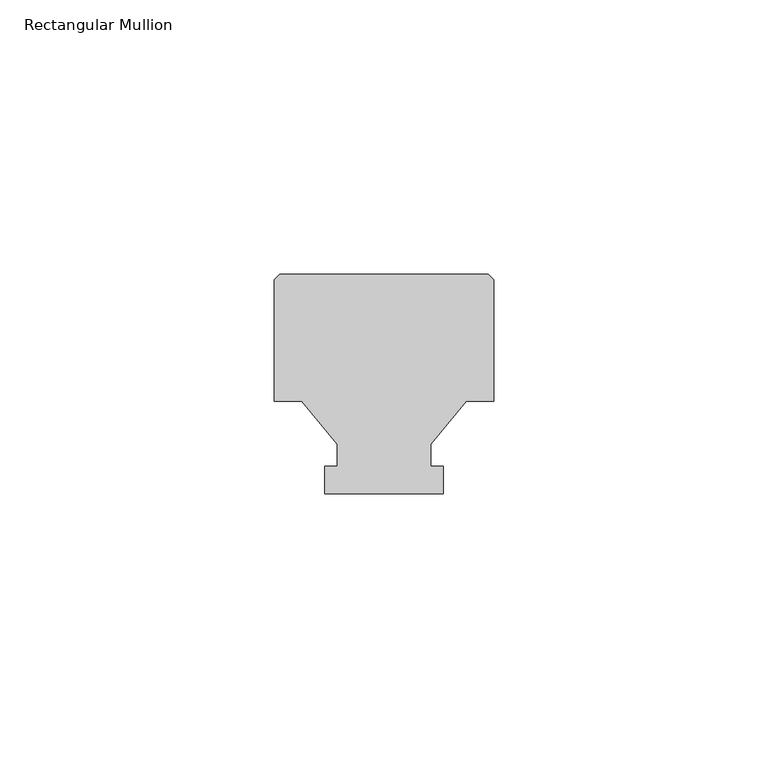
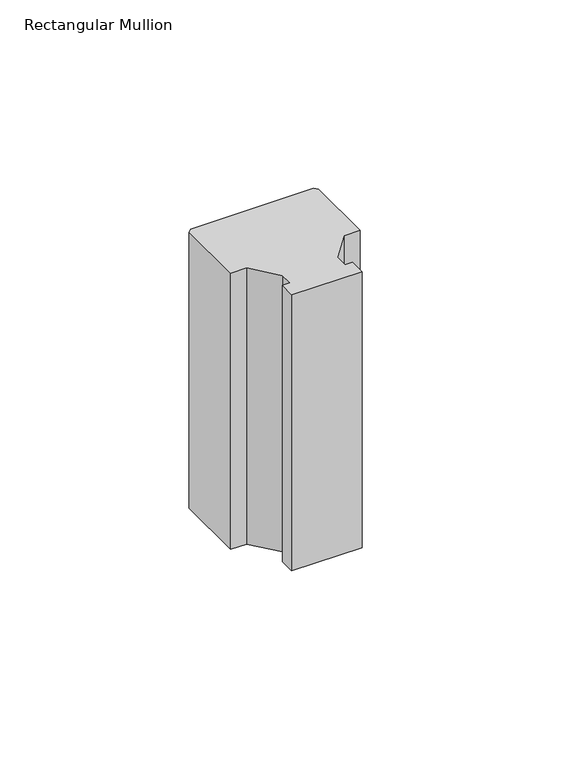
"""IFC4 building model written with IfcOpenShell, lengths in millimetres: member geometry, Rectangular Mullion : Batten_Timber_Modinex_Austratus_Grid_Fin_40x40_AlaskanYellowCedar."""

from ifc_helpers import new_model, si_unit, frame, origin, place, context, project, spatial, polyline, outline, extrude, source, transform, mapped, element, save


def rectangular_mullion_ff8a000c(model_context):
    return source(origin(), model_context, "Body", "SweptSolid", [
        extrude(outline(polyline([(-40.0, 16.8079815), (-40.0, 39.0), (-39.0, 40.0), (-1.0, 40.0), (0.0, 39.0), (0.0, 16.8079815), (-5.0, 16.8079815), (-11.5, 9.0), (-11.5, 5.0), (-9.187805, 5.0), (-9.187805, 0.0), (-30.812195, 0.0), (-30.812195, 5.0), (-28.5, 5.0), (-28.5, 9.0), (-35.0, 16.8079815), (-40.0, 16.8079815)])), frame((0.0, 0.0, -89.9999997), z_axis=(0.0, 0.0, 1.0), x_axis=(1.0, 0.0, 0.0)), (0.0, 0.0, 1.0), 89.9999997),
    ])


if __name__ == "__main__":
    model = new_model("IFC4")
    model_context = context("Model", 3, world=origin())
    ifc_project = project(units=[si_unit("LENGTHUNIT", "METRE", prefix="MILLI")], contexts=[model_context])
    site = spatial("IfcSite", under=ifc_project)
    building = spatial("IfcBuilding", under=site)
    placement = place(None, origin())
    rectangular_mullion_shape = rectangular_mullion_ff8a000c(model_context)
    element("IfcMember", 1, ObjectType="Rectangular Mullion : Batten_Timber_Modinex_Austratus_Grid_Fin_40x40_AlaskanYellowCedar", at=placement, inside=building, context=model_context, shape_type="MappedRepresentation", body=[
        mapped(rectangular_mullion_shape, transform((0.0, 0.0, 0.0), x_axis=(1.0, 0.0, 0.0), y_axis=(0.0, 1.0, 0.0), z_axis=(0.0, 0.0, 1.0))),
    ])
    save(model, "model.ifc")
